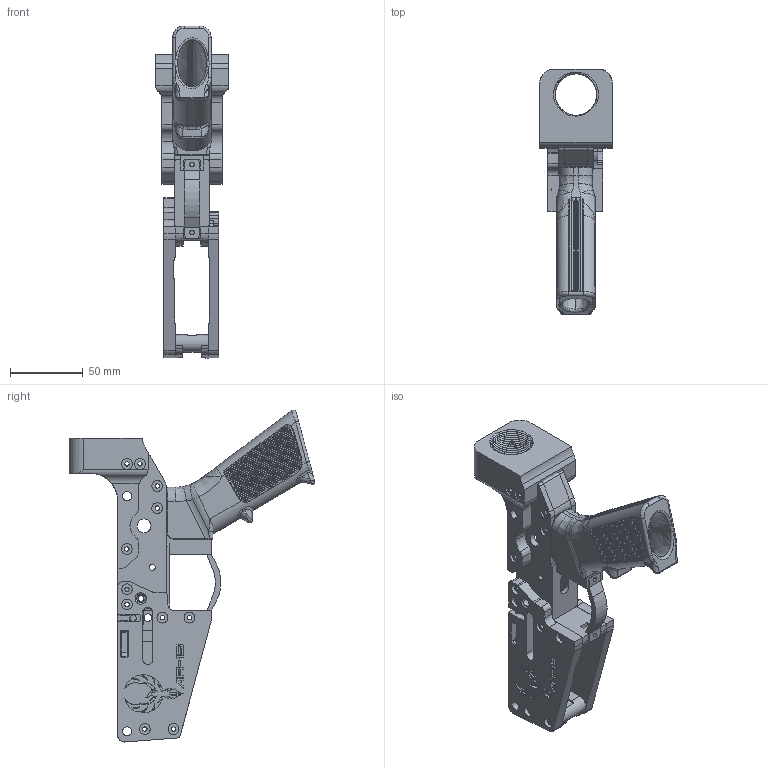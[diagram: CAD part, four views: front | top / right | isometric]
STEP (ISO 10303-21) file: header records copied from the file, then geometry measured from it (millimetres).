
FILE_DESCRIPTION (( 'STEP AP214' ), '1' );
FILE_NAME ('Firebolt_5.56_Standard_Bolt_Catch.STEP', '2020-12-05T18:56:06', ( '' ), ( '' ), 'SwSTEP 2.0', 'SolidWorks 2020', '' );
FILE_SCHEMA (( 'AUTOMOTIVE_DESIGN' ));
Length unit declared in the file: millimetre
Products named in the file (12): Firebolt_Trigger_Guard; Firebolt_Grip_Part; Firebolt_Bolt_Catch_Mag_Well_Right; Firebolt_Bolt_Catch_Mag_Well_Left; Firebolt_Side_Right; Firebolt_Bolt_Catch_Mag_Well_Rear; Firebolt_Pistol_Grip; Firebolt_Side_Left; Firebolt_5.56_Standard_Bolt_Catch; Firebolt_Fire_Control_Well_Bottom; Firebolt_Mag_Well_Front; Firebolt_Buffer_Tower
Assembly tree (11 placements, depth 2):
  Firebolt_5.56_Standard_Bolt_Catch
    Firebolt_Buffer_Tower
    Firebolt_Side_Left
    Firebolt_Side_Right
    Firebolt_Grip_Part
    Firebolt_Pistol_Grip
    Firebolt_Fire_Control_Well_Bottom
    Firebolt_Trigger_Guard
    Firebolt_Mag_Well_Front
    Firebolt_Bolt_Catch_Mag_Well_Left
    Firebolt_Bolt_Catch_Mag_Well_Rear
    Firebolt_Bolt_Catch_Mag_Well_Right
Bounding box: 50 x 169.01 x 228.65 mm (x, y, z)
Volume: 257699 mm3; surface area: 118042.4 mm2
Topology: 11 solids, 11 shells, 7882 faces, 17321 edges, 10998 vertices
Faces by surface type: plane 7215, cylinder 482, bspline 175, cone 6, torus 4
Entity records: 251700 total; most frequent: CARTESIAN_POINT 84877, ORIENTED_EDGE 34628, DIRECTION 29948, EDGE_CURVE 17314, LINE 12920, VECTOR 12920, VERTEX_POINT 10998, EDGE_LOOP 9582
